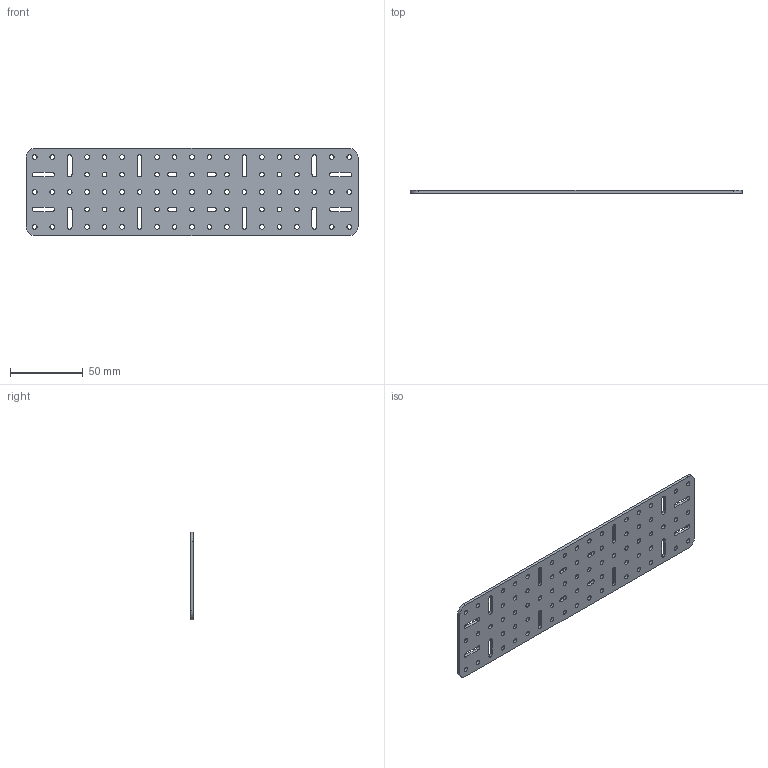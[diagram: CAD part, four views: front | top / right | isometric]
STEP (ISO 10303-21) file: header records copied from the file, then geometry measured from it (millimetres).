
FILE_DESCRIPTION (( 'STEP AP214' ), '1' );
FILE_NAME ('5x19 Plate.STEP', '2024-06-13T09:17:54', ( '' ), ( '' ), 'SwSTEP 2.0', 'SolidWorks 2023', '' );
FILE_SCHEMA (( 'AUTOMOTIVE_DESIGN' ));
Length unit declared in the file: millimetre
Products named in the file (1): 5x19 Plate
Bounding box: 228 x 2 x 60 mm (x, y, z)
Volume: 24964.7 mm3; surface area: 28389 mm2
Topology: 1 solids, 1 shells, 216 faces, 642 edges, 428 vertices
Faces by surface type: cylinder 178, plane 38
Entity records: 7797 total; most frequent: DIRECTION 1432, CARTESIAN_POINT 1287, ORIENTED_EDGE 1284, EDGE_CURVE 642, AXIS2_PLACEMENT_3D 573, VERTEX_POINT 428, EDGE_LOOP 382, CIRCLE 356
